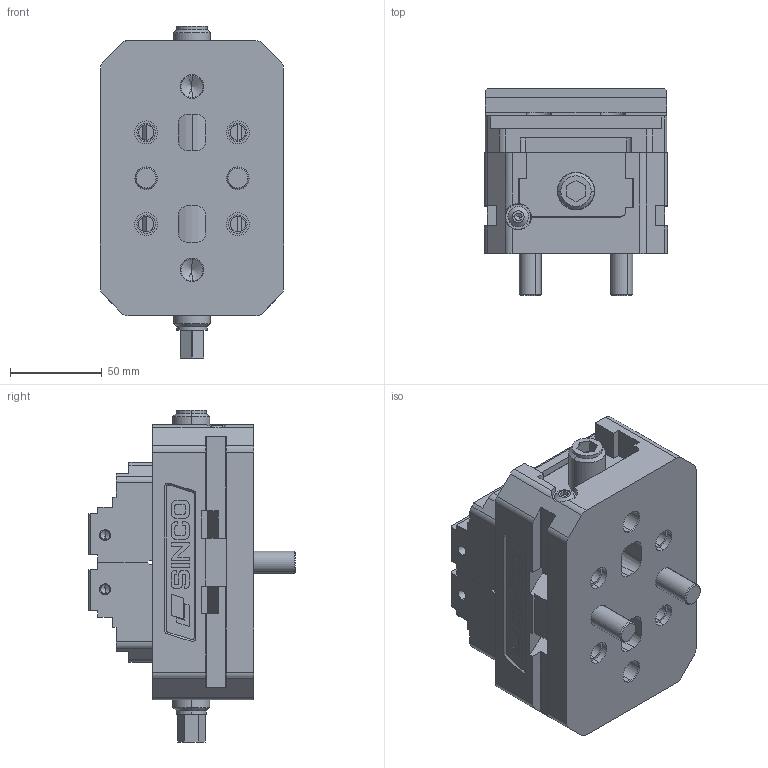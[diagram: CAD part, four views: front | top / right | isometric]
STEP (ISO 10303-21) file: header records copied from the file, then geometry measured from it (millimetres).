
FILE_DESCRIPTION (( 'STEP AP214' ), '1' );
FILE_NAME ('3B4-5100-0-S_MZ 5XGRIP_Assembly.STEP', '2025-06-09T03:40:51', ( '' ), ( '' ), 'SwSTEP 2.0', 'SolidWorks 2018', '' );
FILE_SCHEMA (( 'AUTOMOTIVE_DESIGN' ));
Length unit declared in the file: millimetre
Products named in the file (14): 3C7-4028-0_Screw M12x65_DIN 912_CAM; 3B4-5150-0_MZ 5XGRIP_Movable Jaw Left_Assembly_R0_CAM_1; 3B4-5180-0-S_MZ 5XGRIP_Jaw pad Type A; 3A4-5160-0-S_MZ 5XGRIP_Protector bushing; 3A4-5170-0-S_MZ 5XGRIP_Jaw pad Type_A; 3C7-4024-0_Socket head screw M8x16_CAM; 3C7-4051-0_Screw M8x30_DIN912; 3B4-5100-0-S_MZ 5XGRIP_Assembly; 3A4-5110-0-S_MZ 5XGRIP_Housing; 3A4-5140-0-S_MZ 5XGRIP_Spindle; 3A4-5150-0-S_MZ 5XGRIP_Movable Jaw Left; 3C7-4022-0_Button head screw_M6x10_CAM; 3A4-5155-0-S_MZ 5XGRIP Movable Jaw Right; 3B4-5155-0_MZ 5XGRIP_Movable Jaw Right_Assembly_R0_CAM_1
Assembly tree (19 placements, depth 4):
  3B4-5100-0-S_MZ 5XGRIP_Assembly
    3A4-5110-0-S_MZ 5XGRIP_Housing
    3A4-5140-0-S_MZ 5XGRIP_Spindle
    3A4-5160-0-S_MZ 5XGRIP_Protector bushing  x2
    3B4-5155-0_MZ 5XGRIP_Movable Jaw Right_Assembly_R0_CAM_1
      3A4-5155-0-S_MZ 5XGRIP Movable Jaw Right
      3B4-5180-0-S_MZ 5XGRIP_Jaw pad Type A
        3A4-5170-0-S_MZ 5XGRIP_Jaw pad Type_A
        3C7-4024-0_Socket head screw M8x16_CAM  x2
        3C7-4051-0_Screw M8x30_DIN912  x2
    3B4-5150-0_MZ 5XGRIP_Movable Jaw Left_Assembly_R0_CAM_1
      3A4-5150-0-S_MZ 5XGRIP_Movable Jaw Left
      3B4-5180-0-S_MZ 5XGRIP_Jaw pad Type A
        3A4-5170-0-S_MZ 5XGRIP_Jaw pad Type_A
        3C7-4024-0_Socket head screw M8x16_CAM  x2
        3C7-4051-0_Screw M8x30_DIN912  x2
    3C7-4022-0_Button head screw_M6x10_CAM  x2
    3C7-4028-0_Screw M12x65_DIN 912_CAM  x2
Bounding box: 99.8 x 112.8 x 181 mm (x, y, z)
Volume: 970995.8 mm3; surface area: 227408.4 mm2
Topology: 20 solids, 20 shells, 1048 faces, 2652 edges, 1716 vertices
Faces by surface type: plane 564, cylinder 352, cone 90, bspline 42
Entity records: 27784 total; most frequent: CARTESIAN_POINT 5262, DIRECTION 4114, ORIENTED_EDGE 3992, EDGE_CURVE 1996, AXIS2_PLACEMENT_3D 1389, LINE 1336, VECTOR 1336, VERTEX_POINT 1313
